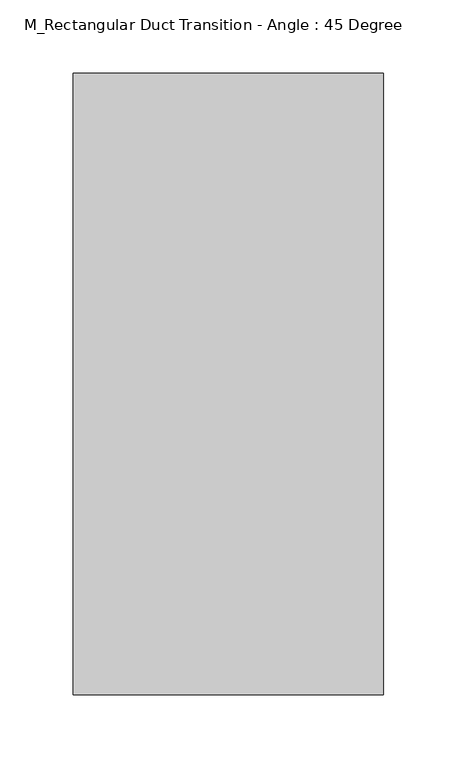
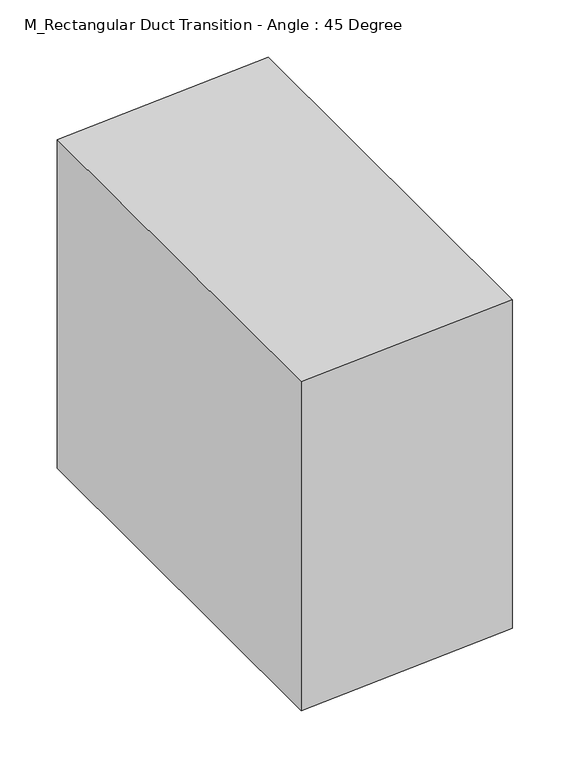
"""IFC4 building model written with IfcOpenShell, lengths in millimetres: duct fitting geometry, M_Rectangular Duct Transition - Angle : 45 Degree."""

from ifc_helpers import new_model, si_unit, frame, origin, place, context, project, spatial, polyline, outline, extrude, source, transform, mapped, element, save


def m_rectangular_duct_transition_angle_45_degree_3d3c11d7(model_context):
    return source(origin(), model_context, "Body", "SweptSolid", [
        extrude(outline(polyline([(175.0, 0.0), (-175.0, 0.0), (-162.0, 212.5), (188.0, 212.5), (175.0, 0.0)])), frame((0.0, -212.5, 0.0), z_axis=(0.0, 1.0, 0.0), x_axis=(0.0, 0.0, 1.0)), (0.0, 0.0, 1.0), 425.0),
        extrude(outline(polyline([(175.0, 0.0), (-175.0, 0.0), (-162.0, 212.5), (188.0, 212.5), (175.0, 0.0)])), frame((0.0, -212.5, 0.0), z_axis=(0.0, 1.0, 0.0), x_axis=(0.0, 0.0, 1.0)), (0.0, 0.0, 1.0), 425.0),
        extrude(outline(polyline([(175.0, 0.0), (-175.0, 0.0), (-162.0, 212.5), (188.0, 212.5), (175.0, 0.0)])), frame((0.0, -212.5, 0.0), z_axis=(0.0, 1.0, 0.0), x_axis=(0.0, 0.0, 1.0)), (0.0, 0.0, 1.0), 425.0),
    ])


if __name__ == "__main__":
    model = new_model("IFC4")
    model_context = context("Model", 3, world=origin())
    ifc_project = project(units=[si_unit("LENGTHUNIT", "METRE", prefix="MILLI")], contexts=[model_context])
    site = spatial("IfcSite", under=ifc_project)
    building = spatial("IfcBuilding", under=site)
    placement = place(None, origin())
    m_rectangular_duct_transition_angle_45_degree_shape = m_rectangular_duct_transition_angle_45_degree_3d3c11d7(model_context)
    element("IfcDuctFitting", 1, ObjectType="M_Rectangular Duct Transition - Angle : 45 Degree", at=placement, inside=building, context=model_context, shape_type="MappedRepresentation", body=[
        mapped(m_rectangular_duct_transition_angle_45_degree_shape, transform((0.0, 0.0, 0.0), x_axis=(1.0, 0.0, 0.0), y_axis=(0.0, 1.0, 0.0), z_axis=(0.0, 0.0, 1.0))),
    ])
    save(model, "model.ifc")
